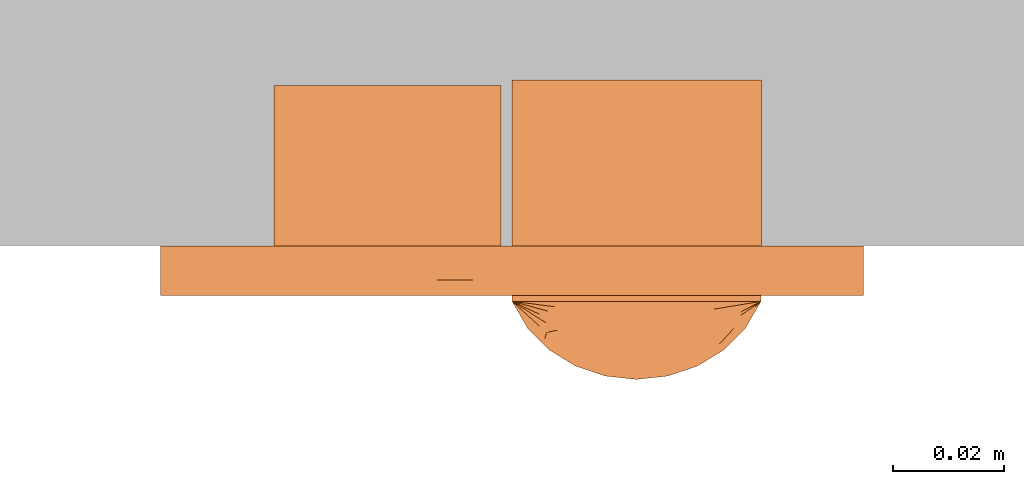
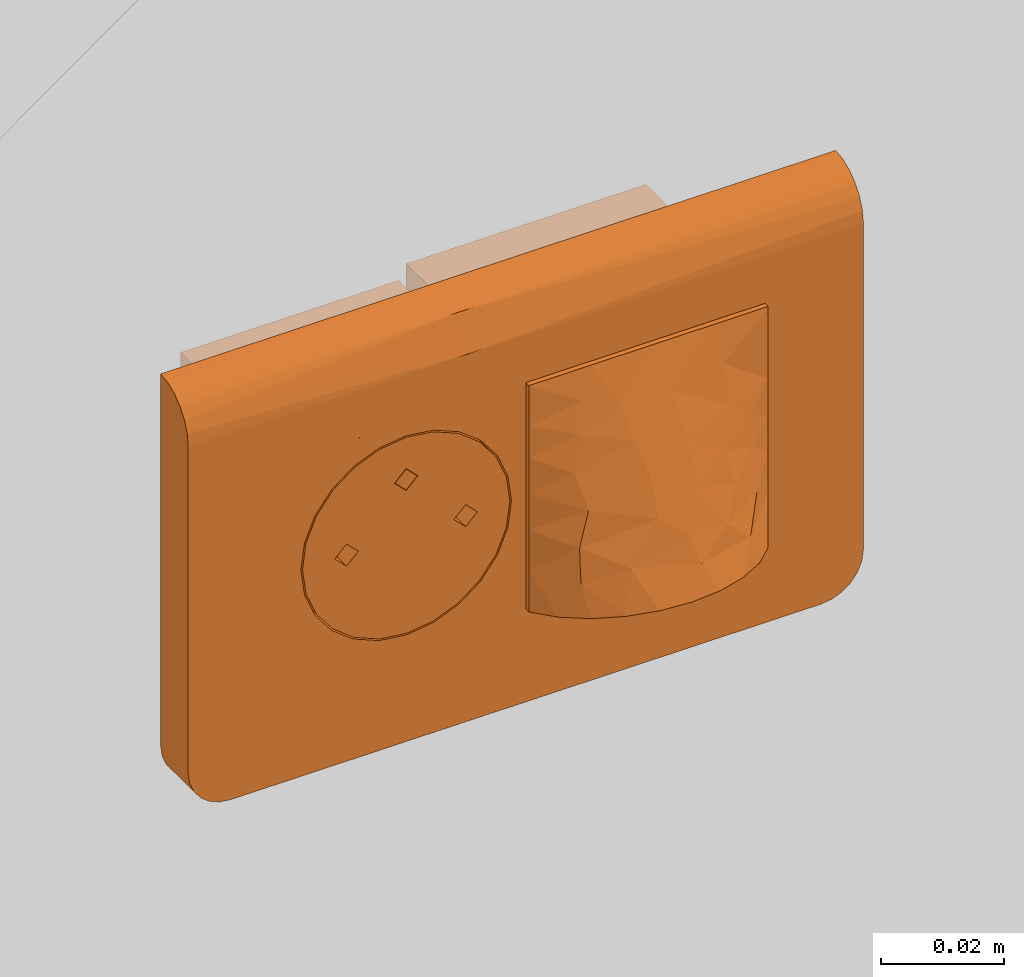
# One storey, part 118 of 197: 1 proxy.
"""IFC2X3 building model written with IfcOpenShell, lengths in metres."""

import ifcopenshell
import ifcopenshell.guid

model = None  # the IFC model being written
_history = None  # IfcOwnerHistory: only IFC2X3 demands one
_inside = {}  # id of a spatial element -> (the spatial element, [elements in it])
_under = {}  # id of a project, library or spatial element -> (it, [spatial elements below it])
_declared = {}  # id of a project -> (the project, [libraries it declares])
_typed = {}  # id of a type object -> (the type object, [elements of that type])
_made_of = {}  # id of a material, layer set ... -> (it, [elements and type objects made of it])


def new_model(schema):
    """Start an empty IFC model of exactly this schema.

    Asked for "IFC4X3", IfcOpenShell would pick the latest addendum, in which some entities
    have other attributes; the version numbers below select the first issue.
    IFC2X3 requires an IfcOwnerHistory on every rooted entity: one is made here for all.
    """
    global model, _history
    if schema == "IFC4X3":
        model = ifcopenshell.file(schema_version=(4, 3, 0, 0))
    else:
        model = ifcopenshell.file(schema=schema)
    _inside.clear()
    _under.clear()
    _declared.clear()
    _typed.clear()
    _made_of.clear()
    _history = None
    if model.schema == "IFC2X3":
        org = make("IfcOrganization", Name="unknown")
        user = make(
            "IfcPersonAndOrganization",
            ThePerson=make("IfcPerson", FamilyName="unknown"),
            TheOrganization=org,
        )
        app = make(
            "IfcApplication",
            ApplicationDeveloper=org,
            Version="unknown",
            ApplicationFullName="unknown",
            ApplicationIdentifier="unknown",
        )
        _history = make(
            "IfcOwnerHistory",
            OwningUser=user,
            OwningApplication=app,
            ChangeAction="ADDED",
            CreationDate=0,
        )
    return model


def make(cls, **values):
    """One entity of the class cls with the attributes given. An attribute that is None is left unset."""
    return model.create_entity(
        cls, **{name: value for name, value in values.items() if value is not None}
    )


def entity(cls, *values):
    """Any entity or typed value of the class cls, its attributes in the order of the schema. None: left unset."""
    e = model.create_entity(cls)
    for i, value in enumerate(values):
        if value is not None:
            e[i] = value
    return e


def rooted(cls, **values):
    """An entity with a GlobalId (a new one), such as an element, a storey or a relation."""
    return make(cls, GlobalId=ifcopenshell.guid.new(), OwnerHistory=_history, **values)


def si_unit(unit_type, name, prefix=None):
    """IfcSIUnit, for example si_unit("LENGTHUNIT", "METRE", prefix="MILLI")."""
    return make("IfcSIUnit", UnitType=unit_type, Prefix=prefix, Name=name)


def converted_unit(unit_type, name, factor, base, dimensions=None, offset=None):
    """IfcConversionBasedUnit, such as the inch: factor (a typed value) times the base unit."""
    return make(
        "IfcConversionBasedUnit"
        if offset is None
        else "IfcConversionBasedUnitWithOffset",
        ConversionOffset=offset,
        Dimensions=None
        if dimensions is None
        else entity("IfcDimensionalExponents", *dimensions),
        UnitType=unit_type,
        Name=name,
        ConversionFactor=make(
            "IfcMeasureWithUnit", ValueComponent=factor, UnitComponent=base
        ),
    )


def assignment(units):
    """IfcUnitAssignment: the units of a project."""
    return None if units is None else make("IfcUnitAssignment", Units=units)


def point(xyz):
    """IfcCartesianPoint."""
    return None if xyz is None else make("IfcCartesianPoint", Coordinates=xyz)


def direction(xyz):
    """IfcDirection."""
    return None if xyz is None else make("IfcDirection", DirectionRatios=xyz)


def frame(location, z_axis=None, x_axis=None):
    """IfcAxis2Placement3D, a coordinate frame: its origin and axes. An axis left out is left unset."""
    return make(
        "IfcAxis2Placement3D",
        Location=point(location),
        Axis=direction(z_axis),
        RefDirection=direction(x_axis),
    )


def origin():
    """The frame at (0, 0, 0) with its axes left unset."""
    return frame((0.0, 0.0, 0.0))


def place(relative_to, where):
    """IfcLocalPlacement: puts the frame where relative to a parent placement (None: the world)."""
    return make(
        "IfcLocalPlacement", PlacementRelTo=relative_to, RelativePlacement=where
    )


def context(
    kind, dimensions, precision=None, world=None, true_north=None, identifier=None
):
    """IfcGeometricRepresentationContext, for example the 3D "Model" context."""
    return make(
        "IfcGeometricRepresentationContext",
        ContextIdentifier=identifier,
        ContextType=kind,
        CoordinateSpaceDimension=dimensions,
        Precision=precision,
        WorldCoordinateSystem=world,
        TrueNorth=true_north,
    )


def subcontext(parent, identifier, kind, view, scale=None):
    """IfcGeometricRepresentationSubContext, for example "Body" below "Model"."""
    return make(
        "IfcGeometricRepresentationSubContext",
        ContextIdentifier=identifier,
        ContextType=kind,
        ParentContext=parent,
        TargetScale=scale,
        TargetView=view,
    )


def project(units=None, contexts=None):
    """IfcProject with its units and contexts."""
    return rooted(
        "IfcProject",
        Name="project",
        RepresentationContexts=contexts,
        UnitsInContext=assignment(units),
    )


def spatial(cls, under=None, at=None, **own):
    """A site, building, storey or space (cls), placed at a placement, below another one or the project."""
    s = rooted(cls, ObjectPlacement=at, **own)
    if under is not None:
        _under.setdefault(under.id(), (under, []))[1].append(s)
    return s


def faces_of(points, faces, orient=None, outer=None):
    """IfcFace entities. A face is a list of loops; a loop is a list of indices into points, from 0.

    orient and outer hold one flag for each loop. By default every Orientation is true, the
    first loop of a face is its IfcFaceOuterBound and the others are IfcFaceBound.
    """
    made = []
    for i, loops in enumerate(faces):
        bounds = []
        for j, loop in enumerate(loops):
            is_outer = j == 0 if outer is None else outer[i][j]
            bounds.append(
                make(
                    "IfcFaceOuterBound" if is_outer else "IfcFaceBound",
                    Bound=make("IfcPolyLoop", Polygon=[points[k] for k in loop]),
                    Orientation=True if orient is None else orient[i][j],
                )
            )
        made.append(make("IfcFace", Bounds=bounds))
    return made


def faceted_brep(points, faces, orient=None, outer=None, voids=None):
    """IfcFacetedBrep: a solid bounded by flat faces; with voids (closed shells), ...WithVoids."""
    shared = [point(p) for p in points]
    hull = make("IfcClosedShell", CfsFaces=faces_of(shared, faces, orient, outer))
    if voids is None:
        return make("IfcFacetedBrep", Outer=hull)
    return make(
        "IfcFacetedBrepWithVoids",
        Outer=hull,
        Voids=[
            make(cls, CfsFaces=faces_of(shared, fs, o, b)) for cls, fs, o, b in voids
        ],
    )


def shape(context_of_items, identifier, shape_type, items):
    """IfcShapeRepresentation: the items that make up one representation, for example the "Body"."""
    return make(
        "IfcShapeRepresentation",
        ContextOfItems=context_of_items,
        RepresentationIdentifier=identifier,
        RepresentationType=shape_type,
        Items=items,
    )


def source(mapping_origin, context_of_items, identifier, shape_type, items):
    """IfcRepresentationMap: a shape defined once, which mapped items show again and again."""
    return make(
        "IfcRepresentationMap",
        MappingOrigin=mapping_origin,
        MappedRepresentation=shape(context_of_items, identifier, shape_type, items),
    )


def transform(
    local_origin,
    x_axis=None,
    y_axis=None,
    z_axis=None,
    scale=None,
    scale2=None,
    scale3=None,
    uniform=True,
):
    """IfcCartesianTransformationOperator3D, or its non-uniform kind. x_axis, y_axis, z_axis: its Axis1, 2, 3."""
    if uniform:
        return make(
            "IfcCartesianTransformationOperator3D",
            Axis1=direction(x_axis),
            Axis2=direction(y_axis),
            LocalOrigin=point(local_origin),
            Scale=scale,
            Axis3=direction(z_axis),
        )
    return make(
        "IfcCartesianTransformationOperator3DnonUniform",
        Axis1=direction(x_axis),
        Axis2=direction(y_axis),
        LocalOrigin=point(local_origin),
        Scale=scale,
        Axis3=direction(z_axis),
        Scale2=scale2,
        Scale3=scale3,
    )


def mapped(mapping_source, mapping_target):
    """IfcMappedItem: shows the shape of a source again, moved by a transform."""
    return make(
        "IfcMappedItem", MappingSource=mapping_source, MappingTarget=mapping_target
    )


def material(Name=None, Category=None):
    """IfcMaterial."""
    return make("IfcMaterial", Name=Name, Category=Category)


def material_list(materials):
    """IfcMaterialList."""
    return make("IfcMaterialList", Materials=materials)


def made_of(thing, what):
    """Note that an element or type object is made of a material, layer set ...; save() writes the relation."""
    if what is not None:
        _made_of.setdefault(what.id(), (what, []))[1].append(thing)
    return thing


def type_object(cls, material=None, **own):
    """A type object (cls), such as IfcWallType, which elements share."""
    return made_of(rooted(cls, **own), material)


def type_shapes(of_type, sources):
    """Give a type object the sources (RepresentationMaps) that its elements show as mapped items."""
    of_type.RepresentationMaps = sources


def element(
    cls,
    number,
    at=None,
    inside=None,
    cuts=None,
    type_object=None,
    material=None,
    context=None,
    identifier="Body",
    shape_type=None,
    held_by="IfcProductDefinitionShape",
    body=None,
    shapes=None,
    **own,
):
    """One element of the class cls, such as IfcWall. Its Tag is "e" and its number.

    at: its placement. inside: the storey or other place that contains it. cuts: it is an
    opening in that element (IfcRelVoidsElement). A single representation is given by context,
    identifier, shape_type and body (its items); several are given by shapes. held_by: the class
    of the entity that holds the representations. save() writes the other relations.
    """
    e = rooted(cls, Tag="e%d" % number, ObjectPlacement=at, **own)
    if body is not None:
        shapes = [shape(context, identifier, shape_type, body)]
    if shapes is not None:
        e.Representation = make(held_by, Representations=shapes)
    if inside is not None:
        _inside.setdefault(inside.id(), (inside, []))[1].append(e)
    if cuts is not None:
        rooted(
            "IfcRelVoidsElement", RelatingBuildingElement=cuts, RelatedOpeningElement=e
        )
    if type_object is not None:
        _typed.setdefault(type_object.id(), (type_object, []))[1].append(e)
    return made_of(e, material)


def aggregate(whole, parts):
    """IfcRelAggregates: a whole, such as a stair, and the parts it consists of."""
    return rooted("IfcRelAggregates", RelatingObject=whole, RelatedObjects=parts)


def save(model, path):
    """Write the relations noted so far, then the file.

    IfcRelAggregates (storeys below a building ...), IfcRelContainedInSpatialStructure (elements
    in a storey), IfcRelDefinesByType, IfcRelAssociatesMaterial and IfcRelDeclares: one each for
    every whole, place, type object, material and project.
    """
    for whole, parts in _under.values():
        aggregate(whole, parts)
    for where, things in _inside.values():
        rooted(
            "IfcRelContainedInSpatialStructure",
            RelatedElements=things,
            RelatingStructure=where,
        )
    for kind, things in _typed.values():
        rooted("IfcRelDefinesByType", RelatedObjects=things, RelatingType=kind)
    for what, things in _made_of.values():
        rooted("IfcRelAssociatesMaterial", RelatedObjects=things, RelatingMaterial=what)
    for by, libraries in _declared.values():
        rooted("IfcRelDeclares", RelatingContext=by, RelatedDefinitions=libraries)
    model.write(path)


model = new_model("IFC2X3")

# Units and contexts
model_context = context("Model", 3, precision=1e-05, world=origin(), true_north=direction((6.123031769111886e-17, 1.0)))
body_context = subcontext(model_context, "Body", "Model", "MODEL_VIEW")
ifc_project = project(units=[si_unit("LENGTHUNIT", "METRE"), converted_unit("PLANEANGLEUNIT", "DEGREE", entity("IfcPlaneAngleMeasure", 0.017453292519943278), si_unit("PLANEANGLEUNIT", "RADIAN"), dimensions=[0, 0, 0, 0, 0, 0, 0]), si_unit("AREAUNIT", "SQUARE_METRE")], contexts=[model_context])

# Site, building, storey
site_placement = place(None, origin())
site = spatial("IfcSite", under=ifc_project, at=site_placement, Name="Default", CompositionType="ELEMENT")
building_placement = place(site_placement, origin())
building = spatial("IfcBuilding", under=site, at=building_placement, CompositionType="ELEMENT")
storey_placement = place(building_placement, origin())
storey = spatial("IfcBuildingStorey", under=building, at=storey_placement, Name="Niveau 0", CompositionType="ELEMENT", Elevation=0.0)

# Proxy
ifc_material_1 = material(Name="<Unnamed>")
ifc_material_2 = material(Name="BETCE-PCN-BLANC")
ifc_material_3 = material(Name="BETCE-PVC-PRISE - BLANC")
ifc_material_4 = material(Name="BETCE-PVC-ENJOLIVEUR - BLANC")
ifc_material_list = material_list([ifc_material_1, ifc_material_2, ifc_material_3, ifc_material_4])
building_element_proxy_type = type_object("IfcBuildingElementProxyType", Name="Poste travail encastré 1x2 modules-HDMI_USB sur sortie cable:1PCN+1HDMI+1USB", PredefinedType="NOTDEFINED", material=ifc_material_list)
shared_shape = source(origin(), body_context, "Body", "Brep", [
    faceted_brep([(0.0450833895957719, -0.004999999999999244, 0.022499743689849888), (0.0, -0.004999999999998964, 0.022499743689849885), (0.0, -0.004999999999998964, -0.022493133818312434), (0.0450833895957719, -0.004999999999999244, -0.022493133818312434), (0.04508338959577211, 0.030000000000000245, 0.022499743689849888), (0.04508338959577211, 0.030000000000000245, -0.022493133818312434), (0.0, 0.030000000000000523, -0.022493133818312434), (0.0, 0.030000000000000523, 0.022499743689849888)], [[[0, 1, 2, 3]], [[4, 5, 6, 7]], [[3, 5, 4, 0]], [[2, 6, 5, 3]], [[1, 7, 6, 2]], [[0, 4, 7, 1]]]),
    faceted_brep([(0.02649999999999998, -0.009999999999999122, -0.02250025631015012), (0.026499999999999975, -0.004999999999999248, -0.02250025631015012), (0.04499999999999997, -0.004999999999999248, -0.02250025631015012), (0.04499999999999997, -0.009999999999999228, -0.02250025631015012), (0.018499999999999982, -0.009999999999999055, -0.02250025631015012), (0.0, -0.009999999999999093, -0.02250025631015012), (0.0, -0.004999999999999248, -0.02250025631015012), (0.01849999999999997, -0.004999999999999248, -0.02250025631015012), (0.04499999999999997, -0.009999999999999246, 0.022499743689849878), (0.04499999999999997, -0.004999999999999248, 0.022499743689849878), (0.0, -0.0049999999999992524, 0.022499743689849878), (0.0, -0.009999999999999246, 0.022499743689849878), (0.011667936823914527, -0.009999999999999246, 0.022499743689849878), (0.02333587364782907, -0.009999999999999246, 0.022499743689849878), (0.03416793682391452, -0.009999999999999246, 0.022499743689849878), (0.044999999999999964, -0.009999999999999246, 0.015338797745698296), (0.04499999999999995, -0.009999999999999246, 0.008177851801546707), (0.044999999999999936, -0.009999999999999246, 0.0010169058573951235), (0.04499999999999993, -0.009999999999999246, -0.006144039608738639), (0.044999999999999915, -0.009999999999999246, -0.014322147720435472), (0.0255447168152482, -0.022144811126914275, -0.014443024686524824), (0.031909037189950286, -0.019458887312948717, -0.010516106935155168), (0.02405622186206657, -0.020564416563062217, -0.009313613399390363), (0.016876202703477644, -0.023519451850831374, -0.01996535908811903), (0.013277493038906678, -0.02006812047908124, -0.012321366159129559), (0.011523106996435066, -0.021734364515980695, -0.020300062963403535), (0.036249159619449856, -0.013105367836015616, 0.007924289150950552), (0.025188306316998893, -0.012704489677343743, 0.014266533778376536), (0.026718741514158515, -0.015324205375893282, 0.005987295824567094), (0.0027915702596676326, -0.014822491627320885, -0.02159603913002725), (0.006726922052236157, -0.01880146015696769, -0.020849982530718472), (0.00589902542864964, -0.01676929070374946, -0.015016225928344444), (0.03568740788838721, -0.011571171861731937, 0.015236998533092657), (0.033742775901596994, -0.015533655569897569, 0.0010643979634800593), (0.027119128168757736, -0.018037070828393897, -0.002508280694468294), (0.034986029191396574, -0.01671190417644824, -0.00494090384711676), (0.0, -0.009999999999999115, -0.014322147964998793), (0.036875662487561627, -0.01839686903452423, -0.015177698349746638), (0.039993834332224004, -0.014987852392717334, -0.009726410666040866), (0.03347469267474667, -0.021735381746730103, -0.020299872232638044), (0.028122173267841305, -0.02351980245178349, -0.019965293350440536), (0.008224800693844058, -0.015208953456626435, -0.001982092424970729), (0.019123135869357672, -0.01905640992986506, -0.0051842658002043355), (0.019047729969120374, -0.016850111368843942, 0.0015118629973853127), (0.02249926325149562, -0.024117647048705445, -0.019853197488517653), (0.0422071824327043, -0.014824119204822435, -0.021595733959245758), (0.038271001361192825, -0.018803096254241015, -0.02084967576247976), (0.006260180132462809, -0.015643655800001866, -0.00862124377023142), (0.03991824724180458, -0.013536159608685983, -0.0014496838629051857), (0.0, -0.009999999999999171, 0.0010169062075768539), (0.0, -0.009999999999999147, -0.006144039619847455), (0.009168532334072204, -0.011168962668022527, 0.016990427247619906), (0.016099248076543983, -0.012424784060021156, 0.014570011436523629), (0.017265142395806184, -0.014560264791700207, 0.008075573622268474), (0.04003045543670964, -0.012633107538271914, 0.0036503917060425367), (0.00829035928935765, -0.012267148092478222, 0.011249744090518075), (0.0, -0.009999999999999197, 0.008177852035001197), (0.006661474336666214, -0.013152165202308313, 0.004597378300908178), (0.0, -0.009999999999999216, 0.014321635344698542), (0.02649999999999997, -0.004999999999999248, -0.01500025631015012), (0.018499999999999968, -0.004999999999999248, -0.01500025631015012), (0.021464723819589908, -0.01786370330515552, -0.015000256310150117), (0.020499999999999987, -0.017464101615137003, -0.015000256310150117), (0.0196715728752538, -0.01682842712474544, -0.015000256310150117), (0.01903589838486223, -0.01599999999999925, -0.015000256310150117), (0.01863629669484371, -0.015035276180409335, -0.015000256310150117), (0.018499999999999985, -0.013999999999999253, -0.015000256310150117), (0.026499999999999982, -0.013999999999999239, -0.015000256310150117), (0.02636370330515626, -0.015035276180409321, -0.015000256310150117), (0.02596410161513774, -0.01599999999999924, -0.015000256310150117), (0.02532842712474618, -0.01682842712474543, -0.015000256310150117), (0.024499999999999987, -0.017464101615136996, -0.015000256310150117), (0.023535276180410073, -0.017863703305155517, -0.015000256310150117), (0.022499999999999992, -0.017999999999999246, -0.015000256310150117), (0.018499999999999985, -0.013999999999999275, -0.01914530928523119), (0.018499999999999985, -0.013999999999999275, -0.02044778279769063), (0.018499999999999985, -0.013999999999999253, -0.02175025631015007), (0.026499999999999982, -0.013999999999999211, -0.021750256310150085), (0.026499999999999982, -0.013999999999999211, -0.020447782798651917), (0.026499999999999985, -0.013999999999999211, -0.019145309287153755), (0.025494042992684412, -0.0166524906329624, -0.02125291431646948), (0.0263837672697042, -0.014957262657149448, -0.021570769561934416), (0.02604182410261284, -0.01585889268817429, -0.021401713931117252), (0.02391841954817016, -0.017740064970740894, -0.021048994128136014), (0.024772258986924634, -0.017291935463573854, -0.021133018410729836), (0.02298214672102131, -0.017970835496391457, -0.021005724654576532), (0.019505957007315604, -0.01665249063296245, -0.021252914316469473), (0.018616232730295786, -0.014957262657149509, -0.021570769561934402), (0.020227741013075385, -0.017291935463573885, -0.021133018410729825), (0.02108158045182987, -0.017740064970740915, -0.021048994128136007), (0.022017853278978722, -0.017970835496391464, -0.021005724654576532), (0.01895817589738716, -0.015858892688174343, -0.021401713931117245)], [[[0, 1, 2, 3]], [[4, 5, 6, 7]], [[8, 9, 10, 11, 12, 13, 14]], [[9, 8, 15, 16, 17, 18, 19, 3, 2]], [[20, 21, 22]], [[23, 24, 25]], [[26, 27, 28]], [[29, 30, 31]], [[14, 27, 32]], [[33, 34, 35]], [[36, 29, 31]], [[30, 25, 31]], [[36, 5, 29]], [[21, 37, 38]], [[24, 23, 20]], [[39, 20, 40]], [[20, 37, 21]], [[39, 37, 20]], [[41, 42, 43]], [[40, 20, 44]], [[37, 19, 38]], [[19, 45, 3]], [[39, 46, 37]], [[46, 45, 37]], [[44, 20, 23]], [[31, 24, 47]], [[42, 24, 22]], [[31, 47, 36]], [[19, 37, 45]], [[34, 33, 28]], [[33, 35, 48]], [[49, 50, 41]], [[48, 35, 38]], [[51, 52, 12]], [[28, 43, 34]], [[28, 27, 53]], [[21, 38, 35]], [[18, 38, 19]], [[34, 22, 21]], [[54, 48, 17]], [[35, 34, 21]], [[38, 18, 48]], [[42, 34, 43]], [[42, 47, 24]], [[28, 53, 43]], [[55, 56, 57]], [[56, 49, 57]], [[12, 11, 51]], [[26, 28, 33]], [[16, 15, 8, 32]], [[54, 17, 16]], [[41, 43, 57]], [[13, 52, 27]], [[26, 16, 32]], [[14, 13, 27]], [[55, 53, 52]], [[56, 55, 58]], [[27, 52, 53]], [[57, 43, 53]], [[55, 57, 53]], [[57, 49, 41]], [[20, 22, 24]], [[42, 22, 34]], [[55, 52, 51]], [[12, 52, 13]], [[26, 33, 54]], [[17, 48, 18]], [[48, 54, 33]], [[26, 54, 16]], [[51, 58, 55]], [[58, 51, 11]], [[50, 36, 47]], [[24, 31, 25]], [[47, 41, 50]], [[41, 47, 42]], [[26, 32, 27]], [[14, 32, 8]], [[5, 36, 50, 49, 56, 58, 11, 10, 6]], [[2, 1, 59, 60, 7, 6, 10, 9]], [[61, 62, 63, 64, 65, 66, 60, 59, 67, 68, 69, 70, 71, 72, 73]], [[60, 66, 74, 75, 76, 4, 7]], [[67, 59, 1, 0, 77, 78, 79]], [[78, 80, 79]], [[77, 81, 78]], [[78, 82, 80]], [[82, 78, 81]], [[79, 83, 72]], [[79, 84, 83]], [[79, 80, 84]], [[69, 68, 79]], [[67, 79, 68]], [[72, 85, 73]], [[71, 79, 72]], [[79, 71, 70]], [[69, 79, 70]], [[85, 72, 83]], [[74, 86, 75]], [[87, 76, 75]], [[88, 74, 89]], [[90, 89, 61]], [[66, 65, 74]], [[75, 86, 91]], [[91, 87, 75]], [[86, 74, 88]], [[74, 61, 89]], [[61, 73, 90]], [[74, 64, 63]], [[63, 62, 74]], [[61, 74, 62]], [[74, 65, 64]], [[90, 73, 85]], [[5, 4, 76, 87, 91, 86, 88, 89, 90, 85, 83, 84, 80, 82, 81, 77, 0, 3, 45, 46, 39, 40, 44, 23, 25, 30, 29]]]),
    faceted_brep([(-0.042999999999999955, 0.0, 0.02049999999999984), (-0.042999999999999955, 0.0, -0.02050000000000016), (-0.0019999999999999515, 0.0, -0.02050000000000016), (-0.0019999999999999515, 0.0, 0.02049999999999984), (-0.04299999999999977, 0.029006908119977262, 0.02049999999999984), (-0.0019999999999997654, 0.029006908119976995, 0.02049999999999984), (-0.0019999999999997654, 0.029006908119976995, -0.02050000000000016), (-0.04299999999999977, 0.029006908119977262, -0.02050000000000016)], [[[0, 1, 2, 3]], [[4, 5, 6, 7]], [[1, 0, 4, 7]], [[2, 1, 7, 6]], [[3, 2, 6, 5]], [[0, 3, 5, 4]]]),
    faceted_brep([(-0.045000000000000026, -0.008993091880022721, 0.02249999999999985), (-0.03239999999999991, -0.008993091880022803, 0.01714730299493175), (-0.027624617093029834, -0.008993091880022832, 0.019125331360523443), (-0.03650071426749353, -0.008993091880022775, 0.01400071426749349), (-0.022499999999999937, -0.008993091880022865, 0.019799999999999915), (-0.03964730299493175, -0.008993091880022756, 0.00989999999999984), (-0.0416253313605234, -0.008993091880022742, 0.005124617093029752), (-0.042299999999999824, -0.008993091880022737, 0.0), (-0.04500000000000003, -0.008993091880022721, -0.022500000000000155), (0.0, -0.008993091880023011, 0.02249999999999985), (-0.0416253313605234, -0.008993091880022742, -0.005124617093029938), (-0.039647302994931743, -0.008993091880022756, -0.009900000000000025), (-0.03650071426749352, -0.008993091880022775, -0.014000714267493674), (-0.032399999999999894, -0.008993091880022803, -0.01714730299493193), (-0.027624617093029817, -0.008993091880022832, -0.019125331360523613), (-0.02249999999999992, -0.008993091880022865, -0.019800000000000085), (0.0, -0.008993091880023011, -0.022500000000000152), (-0.017375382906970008, -0.0089930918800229, -0.01912533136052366), (-0.012599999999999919, -0.00899309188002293, -0.017147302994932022), (-0.00849928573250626, -0.008993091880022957, -0.014000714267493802), (-0.005352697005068, -0.008993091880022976, -0.009900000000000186), (-0.003374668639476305, -0.008993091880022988, -0.005124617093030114), (-0.0026999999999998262, -0.008993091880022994, 0.0), (-0.01737538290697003, -0.0089930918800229, 0.019125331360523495), (-0.012599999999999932, -0.00899309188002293, 0.01714730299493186), (-0.008499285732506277, -0.008993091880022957, 0.014000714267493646), (-0.005352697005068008, -0.008993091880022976, 0.009900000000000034), (-0.003374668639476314, -0.008993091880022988, 0.005124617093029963), (-0.04499999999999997, 0.0, -0.022500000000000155), (-0.03239999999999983, 0.0, -0.01714730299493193), (-0.027624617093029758, 0.0, -0.019125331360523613), (-0.03650071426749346, 0.0, -0.014000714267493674), (-0.02249999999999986, 0.0, -0.019800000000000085), (-0.03964730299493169, 0.0, -0.009900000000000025), (-0.04162533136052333, 0.0, -0.005124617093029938), (-0.04229999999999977, 0.0, 0.0), (-0.044999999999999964, 0.0, 0.02249999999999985), (0.0, 0.0, -0.022500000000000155), (-0.041625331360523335, 0.0, 0.005124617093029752), (-0.039647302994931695, 0.0, 0.00989999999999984), (-0.03650071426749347, 0.0, 0.01400071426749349), (-0.03239999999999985, 0.0, 0.01714730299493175), (-0.027624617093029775, 0.0, 0.019125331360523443), (-0.022499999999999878, 0.0, 0.019799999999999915), (0.0, 0.0, 0.02249999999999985), (-0.01737538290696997, 0.0, 0.019125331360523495), (-0.012599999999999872, 0.0, 0.01714730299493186), (-0.008499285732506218, 0.0, 0.014000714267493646), (-0.005352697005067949, 0.0, 0.009900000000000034), (-0.0033746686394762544, 0.0, 0.005124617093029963), (-0.002699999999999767, 0.0, 0.0), (-0.01737538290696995, 0.0, -0.01912533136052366), (-0.01259999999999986, 0.0, -0.017147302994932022), (-0.0084992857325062, 0.0, -0.014000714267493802), (-0.00535269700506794, 0.0, -0.009900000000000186), (-0.003374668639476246, 0.0, -0.005124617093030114)], [[[0, 1, 2]], [[1, 0, 3]], [[0, 2, 4]], [[5, 3, 0]], [[6, 5, 0]], [[7, 6, 0]], [[0, 8, 7]], [[4, 9, 0]], [[10, 7, 8]], [[11, 10, 8]], [[12, 11, 8]], [[8, 13, 12]], [[13, 8, 14]], [[15, 14, 8]], [[8, 16, 15]], [[17, 15, 16]], [[18, 17, 16]], [[16, 19, 18]], [[19, 16, 20]], [[21, 20, 16]], [[22, 21, 16]], [[22, 16, 9]], [[9, 4, 23]], [[9, 23, 24]], [[24, 25, 9]], [[25, 26, 9]], [[26, 27, 9]], [[9, 27, 22]], [[28, 29, 30]], [[29, 28, 31]], [[28, 30, 32]], [[33, 31, 28]], [[34, 33, 28]], [[35, 34, 28]], [[28, 36, 35]], [[32, 37, 28]], [[38, 35, 36]], [[39, 38, 36]], [[40, 39, 36]], [[36, 41, 40]], [[41, 36, 42]], [[43, 42, 36]], [[36, 44, 43]], [[45, 43, 44]], [[46, 45, 44]], [[44, 47, 46]], [[47, 44, 48]], [[49, 48, 44]], [[50, 49, 44]], [[50, 44, 37]], [[37, 32, 51]], [[37, 51, 52]], [[52, 53, 37]], [[53, 54, 37]], [[54, 55, 37]], [[37, 55, 50]], [[36, 28, 8, 0]], [[44, 36, 0, 9]], [[37, 44, 9, 16]], [[28, 37, 16, 8]], [[35, 7, 10, 34]], [[34, 10, 11, 33]], [[29, 31, 12, 13]], [[12, 31, 33, 11]], [[30, 29, 13, 14]], [[30, 14, 15, 32]], [[32, 15, 17, 51]], [[51, 17, 18, 52]], [[54, 53, 19, 20]], [[19, 53, 52, 18]], [[55, 54, 20, 21]], [[55, 21, 22, 50]], [[50, 22, 27, 49]], [[49, 27, 26, 48]], [[46, 47, 25, 24]], [[25, 47, 48, 26]], [[45, 46, 24, 23]], [[45, 23, 4, 43]], [[43, 4, 2, 42]], [[42, 2, 1, 41]], [[39, 40, 3, 5]], [[3, 40, 41, 1]], [[38, 39, 5, 6]], [[38, 6, 7, 35]]]),
    faceted_brep([(-0.03369999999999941, 0.0, -0.002200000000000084), (-0.03224999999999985, 0.0, -0.01688749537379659), (-0.0362885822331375, 0.0, -0.013788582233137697), (-0.02754697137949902, 0.0, -0.01883555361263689), (-0.03938749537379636, 0.0, -0.009750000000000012), (-0.031499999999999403, 0.0, 0.0), (-0.04133555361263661, 0.0, -0.005046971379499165), (-0.035899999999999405, 0.0, 0.0), (-0.02249999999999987, 0.0, -0.019500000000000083), (-0.013499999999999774, 0.0, 0.0), (-0.022499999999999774, 0.0, 0.00889999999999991), (-0.024699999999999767, 0.0, 0.011099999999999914), (-0.03369999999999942, 0.0, 0.0021999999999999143), (-0.04133555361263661, 0.0, 0.005046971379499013), (-0.03938749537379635, 0.0, 0.009749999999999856), (-0.036288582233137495, 0.0, 0.013788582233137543), (-0.032249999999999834, 0.0, 0.01688749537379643), (-0.027546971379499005, 0.0, 0.01883555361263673), (-0.02249999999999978, 0.0, 0.013299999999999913), (-0.020299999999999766, 0.0, 0.011099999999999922), (-0.017453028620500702, 0.0, 0.018835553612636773), (-0.012749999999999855, 0.0, 0.016887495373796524), (-0.008711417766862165, 0.0, 0.01378858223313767), (-0.011299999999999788, 0.0, 0.0021999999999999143), (-0.005612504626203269, 0.0, 0.009750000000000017), (-0.0036644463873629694, 0.0, 0.005046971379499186), (-0.009099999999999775, 0.0, 0.0), (-0.01745302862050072, 0.0, -0.018835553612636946), (-0.011299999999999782, 0.0, -0.002200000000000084), (-0.012749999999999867, 0.0, -0.016887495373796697), (-0.008711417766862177, 0.0, -0.01378858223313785), (-0.0056125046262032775, 0.0, -0.0097500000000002), (-0.0036644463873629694, 0.0, -0.005046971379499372), (-0.0029999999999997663, 0.0, 0.0), (-0.04199999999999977, 0.0, 0.0), (-0.022499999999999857, 0.0, 0.019499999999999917), (-0.0322499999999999, -0.008993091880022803, 0.01688749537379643), (-0.03628858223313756, -0.008993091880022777, 0.013788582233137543), (-0.024699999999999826, -0.008993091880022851, 0.011099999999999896), (-0.027546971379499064, -0.008993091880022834, 0.01883555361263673), (-0.03369999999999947, -0.008993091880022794, 0.0021999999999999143), (-0.03938749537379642, -0.008993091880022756, 0.009749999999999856), (-0.041335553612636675, -0.008993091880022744, 0.005046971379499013), (-0.03589999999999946, -0.00899309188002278, 0.0), (-0.04199999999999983, -0.00899309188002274, 0.0), (-0.04133555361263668, -0.008993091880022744, -0.005046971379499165), (-0.03369999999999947, -0.008993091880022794, -0.002200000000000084), (-0.03938749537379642, -0.008993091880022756, -0.009750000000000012), (-0.036288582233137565, -0.008993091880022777, -0.013788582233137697), (-0.03224999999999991, -0.008993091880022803, -0.01688749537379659), (-0.027546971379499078, -0.008993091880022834, -0.01883555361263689), (-0.031499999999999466, -0.008993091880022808, 0.0), (-0.022499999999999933, -0.008993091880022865, -0.019500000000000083), (-0.013499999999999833, -0.008993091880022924, 0.0), (-0.017453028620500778, -0.008993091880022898, -0.018835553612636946), (-0.011299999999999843, -0.008993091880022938, -0.002200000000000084), (-0.012749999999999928, -0.00899309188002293, -0.016887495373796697), (-0.008711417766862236, -0.008993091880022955, -0.01378858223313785), (-0.0056125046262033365, -0.008993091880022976, -0.0097500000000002), (-0.003664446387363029, -0.008993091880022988, -0.005046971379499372), (-0.00909999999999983, -0.008993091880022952, 0.0), (-0.0029999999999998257, -0.008993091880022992, 0.0), (-0.003664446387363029, -0.008993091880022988, 0.005046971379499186), (-0.011299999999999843, -0.008993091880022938, 0.0021999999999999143), (-0.005612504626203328, -0.008993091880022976, 0.009750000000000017), (-0.008711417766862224, -0.008993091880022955, 0.01378858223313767), (-0.020299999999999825, -0.008993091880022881, 0.011099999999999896), (-0.012749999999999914, -0.00899309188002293, 0.016887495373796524), (-0.01745302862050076, -0.008993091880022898, 0.018835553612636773), (-0.02249999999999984, -0.008993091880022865, 0.013299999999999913), (-0.022499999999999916, -0.008993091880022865, 0.019499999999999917), (-0.022499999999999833, -0.008993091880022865, 0.00889999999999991)], [[[0, 1, 2]], [[0, 3, 1]], [[2, 4, 0]], [[0, 5, 3]], [[6, 0, 4]], [[7, 0, 6]], [[3, 5, 8]], [[8, 5, 9]], [[9, 5, 10]], [[10, 5, 11]], [[12, 11, 5]], [[13, 12, 7]], [[13, 14, 12]], [[12, 14, 15]], [[15, 11, 12]], [[15, 16, 11]], [[17, 11, 16]], [[11, 17, 18]], [[19, 9, 10]], [[18, 20, 19]], [[21, 19, 20]], [[19, 21, 22]], [[19, 22, 23]], [[9, 19, 23]], [[24, 23, 22]], [[23, 24, 25]], [[26, 23, 25]], [[27, 8, 9]], [[28, 27, 9]], [[28, 29, 27]], [[28, 30, 29]], [[28, 31, 30]], [[28, 32, 31]], [[32, 28, 26]], [[32, 26, 33]], [[33, 26, 25]], [[6, 34, 7]], [[7, 34, 13]], [[18, 17, 35]], [[20, 18, 35]], [[36, 37, 38]], [[38, 39, 36]], [[37, 40, 38]], [[40, 37, 41]], [[41, 42, 40]], [[40, 42, 43]], [[44, 43, 42]], [[44, 45, 43]], [[46, 43, 45]], [[45, 47, 46]], [[46, 47, 48]], [[49, 46, 48]], [[46, 49, 50]], [[51, 46, 50]], [[51, 50, 52]], [[52, 53, 51]], [[53, 52, 54]], [[55, 53, 54]], [[54, 56, 55]], [[56, 57, 55]], [[55, 57, 58]], [[58, 59, 55]], [[60, 55, 59]], [[59, 61, 60]], [[61, 62, 60]], [[62, 63, 60]], [[64, 63, 62]], [[64, 65, 63]], [[63, 65, 66]], [[66, 65, 67]], [[66, 67, 68]], [[66, 68, 69]], [[68, 70, 69]], [[70, 39, 69]], [[69, 39, 38]], [[53, 66, 71]], [[63, 66, 53]], [[71, 51, 53]], [[38, 51, 71]], [[38, 40, 51]], [[42, 13, 34, 44]], [[41, 14, 13, 42]], [[15, 37, 36, 16]], [[41, 37, 15, 14]], [[16, 36, 39, 17]], [[17, 39, 70, 35]], [[67, 21, 20, 68]], [[65, 22, 21, 67]], [[24, 64, 62, 25]], [[65, 64, 24, 22]], [[25, 62, 61, 33]], [[20, 35, 70, 68]], [[59, 32, 33, 61]], [[58, 31, 32, 59]], [[30, 57, 56, 29]], [[58, 57, 30, 31]], [[29, 56, 54, 27]], [[27, 54, 52, 8]], [[49, 1, 3, 50]], [[48, 2, 1, 49]], [[4, 47, 45, 6]], [[48, 47, 4, 2]], [[6, 45, 44, 34]], [[3, 8, 52, 50]], [[71, 10, 11, 38]], [[66, 19, 10, 71]], [[69, 18, 19, 66]], [[38, 11, 18, 69]], [[55, 28, 9, 53]], [[60, 26, 28, 55]], [[63, 23, 26, 60]], [[53, 9, 23, 63]], [[46, 0, 7, 43]], [[51, 5, 0, 46]], [[40, 12, 5, 51]], [[43, 7, 12, 40]]]),
    faceted_brep([(-0.022499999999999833, -0.008993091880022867, 0.008999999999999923), (-0.020399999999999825, -0.008993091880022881, 0.011099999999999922), (-0.022499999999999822, -0.008993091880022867, 0.01319999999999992), (-0.024599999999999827, -0.008993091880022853, 0.011099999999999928), (-0.024599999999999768, 0.0, 0.011099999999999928), (-0.022499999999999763, 0.0, 0.01319999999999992), (-0.020399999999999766, 0.0, 0.011099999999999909), (-0.022499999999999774, 0.0, 0.008999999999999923)], [[[0, 1, 2, 3]], [[4, 5, 6, 7]], [[3, 4, 7, 0]], [[7, 6, 1, 0]], [[1, 6, 5, 2]], [[5, 4, 3, 2]]]),
    faceted_brep([(0.06349999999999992, -0.008993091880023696, -0.033000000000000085), (0.06349999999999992, -0.008993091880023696, 0.03200000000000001), (0.044999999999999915, -0.008993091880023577, -0.02250000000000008), (0.055499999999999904, -0.008993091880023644, -0.04099999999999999), (0.05757055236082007, -0.008993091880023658, -0.040727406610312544), (0.05949999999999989, -0.00899309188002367, -0.0399282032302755), (0.06115685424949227, -0.008993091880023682, -0.038656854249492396), (0.06322740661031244, -0.008993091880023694, -0.03507055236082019), (0.044999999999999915, -0.008993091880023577, 0.022499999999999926), (-0.04500000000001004, -0.008993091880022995, 0.022499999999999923), (-0.011124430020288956, -0.008993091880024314, 0.03199999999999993), (-0.06350000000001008, -0.008993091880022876, 0.03200000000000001), (-0.04500000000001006, -0.008993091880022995, -0.02250000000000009), (-0.06350000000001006, -0.008993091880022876, -0.03299999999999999), (-0.055500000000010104, -0.008993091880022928, -0.04099999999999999), (-0.057570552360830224, -0.008993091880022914, -0.040727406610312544), (-0.05950000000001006, -0.008993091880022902, -0.0399282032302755), (-0.06115685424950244, -0.008993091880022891, -0.03865685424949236), (-0.06322740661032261, -0.008993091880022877, -0.03507055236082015), (-0.06242820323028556, -0.008993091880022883, -0.036999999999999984), (0.062428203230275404, -0.00899309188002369, -0.03700000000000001), (-0.06350000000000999, 0.0, -0.03299999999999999), (-0.06350000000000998, 0.0, 0.04099999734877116), (-0.04500000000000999, 0.0, 0.022499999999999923), (-0.04500000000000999, 0.0, -0.02250000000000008), (-0.05550000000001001, 0.0, -0.04099999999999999), (-0.057570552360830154, 0.0, -0.040727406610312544), (-0.05950000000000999, 0.0, -0.0399282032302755), (-0.06322740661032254, 0.0, -0.03507055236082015), (0.011124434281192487, 0.0, 0.04099999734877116), (0.06349999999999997, 0.0, 0.04100000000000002), (0.04499999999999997, 0.0, 0.022499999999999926), (0.06349999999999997, 0.0, -0.033000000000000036), (0.04499999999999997, 0.0, -0.02250000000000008), (0.05549999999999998, 0.0, -0.04099999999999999), (0.05757055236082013, 0.0, -0.040727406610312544), (0.05949999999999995, 0.0, -0.0399282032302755), (0.06322740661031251, 0.0, -0.03507055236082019), (0.06115685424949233, 0.0, -0.038656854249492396), (0.06242820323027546, 0.0, -0.03700000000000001), (-0.06115685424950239, 0.0, -0.03865685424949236), (-0.062428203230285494, 0.0, -0.036999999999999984), (0.06349999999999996, -0.0023280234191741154, 0.0406918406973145), (0.06349999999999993, -0.004497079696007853, 0.03979192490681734), (0.06349999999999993, -0.0063594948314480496, 0.03836151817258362), (0.06349999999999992, -0.007788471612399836, 0.03649800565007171), (0.06349999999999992, -0.00868672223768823, 0.03432825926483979), (-0.06350000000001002, -0.0023280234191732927, 0.0406918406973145), (-0.06350000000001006, -0.008686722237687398, 0.034328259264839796), (-0.06350000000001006, -0.00778847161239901, 0.036498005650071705), (-0.06350000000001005, -0.006359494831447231, 0.0383615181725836), (-0.06350000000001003, -0.00449707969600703, 0.03979192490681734), (-0.01087655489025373, -0.006115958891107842, 0.03859624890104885)], [[[0, 1, 2]], [[3, 0, 2]], [[0, 3, 4]], [[0, 4, 5]], [[5, 6, 0]], [[7, 0, 6]], [[2, 1, 8]], [[1, 9, 8]], [[9, 1, 10]], [[9, 10, 11]], [[12, 9, 11]], [[13, 12, 11]], [[14, 12, 13]], [[14, 13, 15]], [[16, 15, 13]], [[13, 17, 16]], [[17, 13, 18]], [[17, 18, 19]], [[12, 14, 3]], [[2, 12, 3]], [[20, 7, 6]], [[21, 22, 23]], [[24, 21, 23]], [[25, 21, 24]], [[21, 25, 26]], [[21, 26, 27]], [[28, 21, 27]], [[23, 22, 29]], [[23, 29, 30]], [[31, 23, 30]], [[32, 31, 30]], [[33, 31, 32]], [[34, 33, 32]], [[34, 32, 35]], [[36, 35, 32]], [[36, 32, 37]], [[37, 38, 36]], [[38, 37, 39]], [[33, 34, 25]], [[24, 33, 25]], [[27, 40, 28]], [[41, 28, 40]], [[1, 0, 32, 30, 42, 43, 44, 45, 46]], [[37, 32, 0, 7]], [[39, 37, 7, 20]], [[38, 39, 20, 6]], [[36, 38, 6, 5]], [[35, 36, 5, 4]], [[34, 35, 4, 3]], [[25, 34, 3, 14]], [[26, 25, 14, 15]], [[27, 26, 15, 16]], [[40, 27, 16, 17]], [[41, 40, 17, 19]], [[28, 41, 19, 18]], [[21, 28, 18, 13]], [[47, 22, 21, 13, 11, 48, 49, 50, 51]], [[24, 23, 9, 12]], [[33, 24, 12, 2]], [[31, 33, 2, 8]], [[23, 31, 8, 9]], [[52, 10, 45]], [[48, 11, 10]], [[1, 46, 10]], [[44, 52, 45]], [[46, 45, 10]], [[51, 52, 47]], [[49, 48, 10]], [[29, 52, 43]], [[49, 52, 50]], [[42, 30, 29]], [[29, 22, 47]], [[49, 10, 52]], [[29, 43, 42]], [[44, 43, 52]], [[52, 51, 50]], [[52, 29, 47]]]),
])
type_shapes(building_element_proxy_type, [shared_shape])
proxy_placement = place(storey_placement, frame((-365.0594485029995, 97.32254659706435, 0.49999999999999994)))
element("IfcBuildingElementProxy", 1, at=proxy_placement, inside=storey, type_object=building_element_proxy_type, material=ifc_material_list, Name="Poste travail encastré 1x2 modules-HDMI_USB sur sortie cable:1PCN+1HDMI+1USB", ObjectType="Poste travail encastré 1x2 modules-HDMI_USB sur sortie cable:1PCN+1HDMI+1USB", context=body_context, shape_type="MappedRepresentation", body=[
    mapped(shared_shape, transform((0.0, 0.0, 0.0), scale=1.0)),
])

save(model, "model.ifc")
